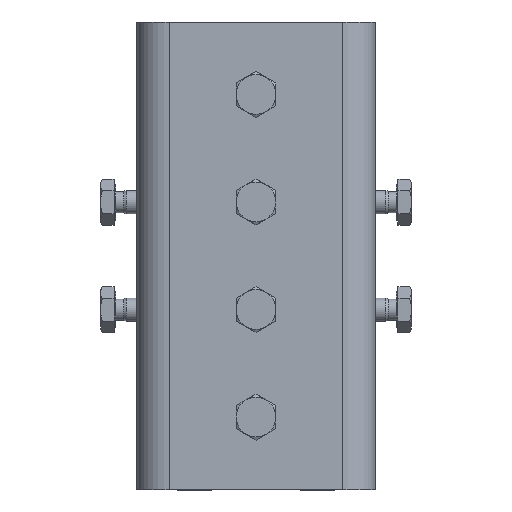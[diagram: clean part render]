
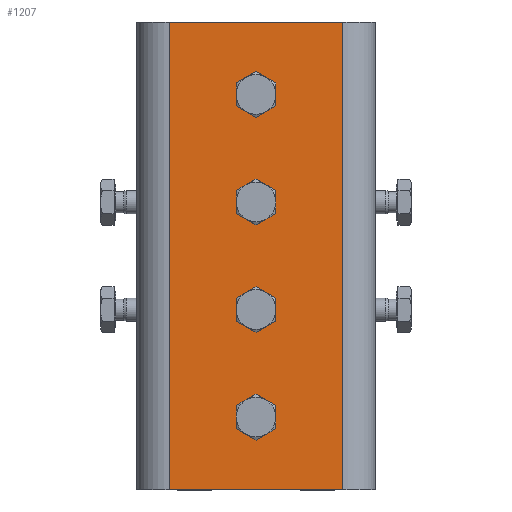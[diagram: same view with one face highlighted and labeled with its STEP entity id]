
A CAD part, top view. The second image highlights one B-rep face of the part: STEP entity #1207.
In plain terms, the highlighted planar face has unit normal (0, 0, 1).
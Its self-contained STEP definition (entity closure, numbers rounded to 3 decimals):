
#75=FACE_BOUND('',#217,.T.);
#76=FACE_BOUND('',#218,.T.);
#77=FACE_BOUND('',#219,.T.);
#78=FACE_BOUND('',#220,.T.);
#133=FACE_OUTER_BOUND('',#216,.T.);
#216=EDGE_LOOP('',(#845,#846,#847,#848));
#217=EDGE_LOOP('',(#849));
#218=EDGE_LOOP('',(#850));
#219=EDGE_LOOP('',(#851));
#220=EDGE_LOOP('',(#852));
#332=LINE('',#1851,#428);
#334=LINE('',#1855,#430);
#335=LINE('',#1857,#431);
#336=LINE('',#1858,#432);
#428=VECTOR('',#1460,200.);
#430=VECTOR('',#1464,74.);
#431=VECTOR('',#1465,200.);
#432=VECTOR('',#1466,74.);
#522=CIRCLE('',#1298,4.188);
#523=CIRCLE('',#1299,4.188);
#524=CIRCLE('',#1300,4.188);
#525=CIRCLE('',#1301,4.188);
#574=VERTEX_POINT('',#1835);
#577=VERTEX_POINT('',#1842);
#579=VERTEX_POINT('',#1854);
#580=VERTEX_POINT('',#1856);
#581=VERTEX_POINT('',#1859);
#582=VERTEX_POINT('',#1861);
#583=VERTEX_POINT('',#1863);
#584=VERTEX_POINT('',#1865);
#678=EDGE_CURVE('',#574,#577,#332,.T.);
#680=EDGE_CURVE('',#577,#579,#334,.T.);
#681=EDGE_CURVE('',#579,#580,#335,.T.);
#682=EDGE_CURVE('',#580,#574,#336,.T.);
#683=EDGE_CURVE('',#581,#581,#522,.T.);
#684=EDGE_CURVE('',#582,#582,#523,.T.);
#685=EDGE_CURVE('',#583,#583,#524,.T.);
#686=EDGE_CURVE('',#584,#584,#525,.T.);
#845=ORIENTED_EDGE('',*,*,#678,.T.);
#846=ORIENTED_EDGE('',*,*,#680,.T.);
#847=ORIENTED_EDGE('',*,*,#681,.T.);
#848=ORIENTED_EDGE('',*,*,#682,.T.);
#849=ORIENTED_EDGE('',*,*,#683,.T.);
#850=ORIENTED_EDGE('',*,*,#684,.T.);
#851=ORIENTED_EDGE('',*,*,#685,.T.);
#852=ORIENTED_EDGE('',*,*,#686,.T.);
#1153=PLANE('',#1297);
#1207=ADVANCED_FACE('',(#133,#75,#76,#77,#78),#1153,.T.);
#1297=AXIS2_PLACEMENT_3D('',#1853,#1462,#1463);
#1298=AXIS2_PLACEMENT_3D('',#1860,#1467,#1468);
#1299=AXIS2_PLACEMENT_3D('',#1862,#1469,#1470);
#1300=AXIS2_PLACEMENT_3D('',#1864,#1471,#1472);
#1301=AXIS2_PLACEMENT_3D('',#1866,#1473,#1474);
#1460=DIRECTION('',(0.,1.,0.));
#1462=DIRECTION('center_axis',(0.,0.,1.));
#1463=DIRECTION('ref_axis',(1.,0.,0.));
#1464=DIRECTION('',(-1.,0.,0.));
#1465=DIRECTION('',(0.,-1.,0.));
#1466=DIRECTION('',(1.,0.,0.));
#1467=DIRECTION('center_axis',(0.,0.,-1.));
#1468=DIRECTION('ref_axis',(1.,0.,0.));
#1469=DIRECTION('center_axis',(0.,0.,-1.));
#1470=DIRECTION('ref_axis',(1.,0.,0.));
#1471=DIRECTION('center_axis',(0.,0.,-1.));
#1472=DIRECTION('ref_axis',(1.,0.,0.));
#1473=DIRECTION('center_axis',(0.,0.,-1.));
#1474=DIRECTION('ref_axis',(1.,0.,0.));
#1835=CARTESIAN_POINT('',(37.,-100.,0.));
#1842=CARTESIAN_POINT('',(37.,100.,0.));
#1851=CARTESIAN_POINT('',(37.,50.,0.));
#1853=CARTESIAN_POINT('Origin',(135.6,0.,0.));
#1854=CARTESIAN_POINT('',(-37.,100.,0.));
#1855=CARTESIAN_POINT('',(144.9,100.,0.));
#1856=CARTESIAN_POINT('',(-37.,-100.,0.));
#1857=CARTESIAN_POINT('',(-37.,-50.,0.));
#1858=CARTESIAN_POINT('',(-144.9,-100.,0.));
#1859=CARTESIAN_POINT('',(4.188,-69.,0.));
#1860=CARTESIAN_POINT('Origin',(0.,-69.,0.));
#1861=CARTESIAN_POINT('',(4.188,69.,0.));
#1862=CARTESIAN_POINT('Origin',(0.,69.,0.));
#1863=CARTESIAN_POINT('',(4.188,23.,0.));
#1864=CARTESIAN_POINT('Origin',(0.,23.,0.));
#1865=CARTESIAN_POINT('',(4.188,-23.,0.));
#1866=CARTESIAN_POINT('Origin',(0.,-23.,0.));
